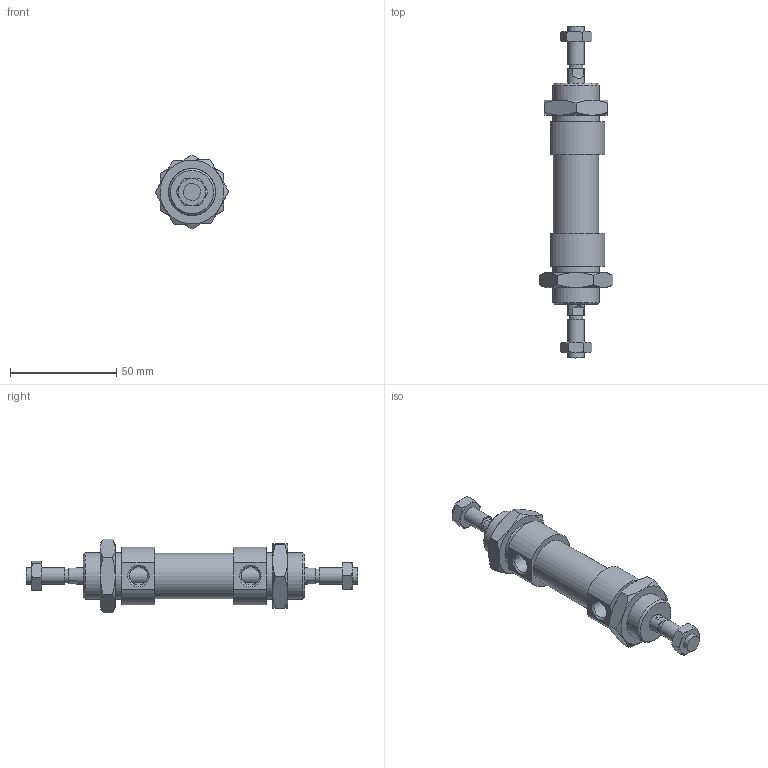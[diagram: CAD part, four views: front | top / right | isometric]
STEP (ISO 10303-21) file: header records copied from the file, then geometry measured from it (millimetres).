
FILE_DESCRIPTION((''),'2;1');
FILE_NAME('I:\Area Tecnica\Disegni\VARIE-3D\Componenti\1280\1282_##_####_#\1282_20_0000.iam.stp','2009-06-03T15:25:02',(''),(''),'Autodesk Inventor 2010','Autodesk Inventor 2010','');
FILE_SCHEMA(('AUTOMOTIVE_DESIGN { 1 0 10303 214 1 1 1 1 }'));
Length unit declared in the file: millimetre
Products named in the file (5): 1282_20_0000; C1282_20_0; S1282_20_0; 1200_20_05; 1200_20_06
Assembly tree (6 placements, depth 2):
  1282_20_0000
    C1282_20_0
    S1282_20_0
    1200_20_05  x2
    1200_20_06  x2
Bounding box: 34.64 x 156 x 34.64 mm (x, y, z)
Volume: 52668.5 mm3; surface area: 20790.2 mm2
Topology: 6 solids, 6 shells, 141 faces, 309 edges, 184 vertices
Faces by surface type: plane 60, cone 52, bspline 18, cylinder 11
Full cylindrical faces by diameter (mm): 6.5 x2, 8 x4, 21.2 x1, 22 x2
Entity records: 2813 total; most frequent: CARTESIAN_POINT 727, DIRECTION 386, ORIENTED_EDGE 352, EDGE_CURVE 176, AXIS2_PLACEMENT_3D 169, EDGE_LOOP 132, VERTEX_POINT 116, STYLED_ITEM 99
